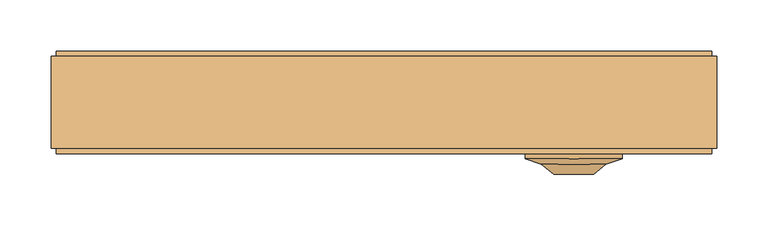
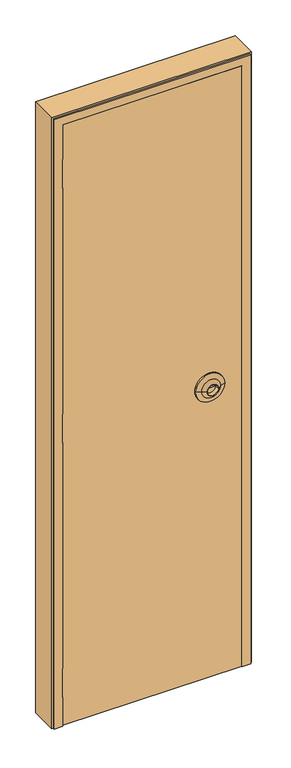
"""IFC4 building model written with IfcOpenShell, lengths in millimetres: door geometry, Puerta contraplacada : Puerta contraplacada 0.65x2.10 m."""

from ifc_helpers import new_model, si_unit, frame, origin, place, context, project, spatial, polyline, circle_curve, outline, extrude, faceted_brep, source, transform, mapped, element, save
from ifc_brep_helpers import plane_surface, cylinder_surface, revolved_surface, advanced_brep


def door_6edd51d8(model_context):
    return source(origin(), model_context, "Body", "SolidModel", [
        advanced_brep(
        [(232.78125, -55.0, 1000.0), (232.78125, -50.0, 1000.0), (137.78125, -50.0, 1000.0), (137.78125, -55.0, 1000.0), (216.78125, -60.0, 1000.0), (153.78125, -60.0, 1000.0), (204.9828812, -70.0, 1000.0), (165.5796188, -70.0, 1000.0), (203.1741787, -70.0, 1000.0), (167.3883213, -70.0, 1000.0), (203.1741787, -55.0, 1000.0), (167.3883213, -55.0, 1000.0), (185.28125, -55.0, 1000.0), (185.28125, -50.0, 1000.0)],
        [
            (0, 1),
            (1, 2, circle_curve(frame((185.28125, -50.0, 1000.0), z_axis=(0.0, -1.0, 0.0), x_axis=(-1.0, 0.0, 0.0)), 47.5)),
            (2, 3),
            (3, 0, circle_curve(frame((185.28125, -55.0, 1000.0), z_axis=(0.0, 1.0, 0.0), x_axis=(-1.0, 0.0, 0.0)), 47.5)),
            (2, 1, circle_curve(frame((185.28125, -50.0, 1000.0), z_axis=(0.0, -1.0, 0.0), x_axis=(-1.0, 0.0, 0.0)), 47.5)),
            (0, 3, circle_curve(frame((185.28125, -55.0, 1000.0), z_axis=(0.0, 1.0, 0.0), x_axis=(-1.0, 0.0, 0.0)), 47.5)),
            (4, 0),
            (3, 5),
            (5, 4, circle_curve(frame((185.28125, -60.0, 1000.0), z_axis=(0.0, 1.0, 0.0), x_axis=(-1.0, 0.0, 0.0)), 31.5)),
            (4, 5, circle_curve(frame((185.28125, -60.0, 1000.0), z_axis=(0.0, 1.0, 0.0), x_axis=(-1.0, 0.0, 0.0)), 31.5)),
            (6, 4),
            (5, 7),
            (7, 6, circle_curve(frame((185.28125, -70.0, 1000.0), z_axis=(0.0, 1.0, 0.0), x_axis=(-1.0, 0.0, 0.0)), 19.7016312)),
            (6, 7, circle_curve(frame((185.28125, -70.0, 1000.0), z_axis=(0.0, 1.0, 0.0), x_axis=(-1.0, 0.0, 0.0)), 19.7016312)),
            (8, 6),
            (7, 9),
            (9, 8, circle_curve(frame((185.28125, -70.0, 1000.0), z_axis=(0.0, 1.0, 0.0), x_axis=(-1.0, 0.0, 0.0)), 17.8929287)),
            (8, 9, circle_curve(frame((185.28125, -70.0, 1000.0), z_axis=(0.0, 1.0, 0.0), x_axis=(-1.0, 0.0, 0.0)), 17.8929287)),
            (10, 8),
            (9, 11),
            (11, 10, circle_curve(frame((185.28125, -55.0, 1000.0), z_axis=(0.0, 1.0, 0.0), x_axis=(-1.0, 0.0, 0.0)), 17.8929287)),
            (10, 11, circle_curve(frame((185.28125, -55.0, 1000.0), z_axis=(0.0, 1.0, 0.0), x_axis=(-1.0, 0.0, 0.0)), 17.8929287)),
            (12, 10),
            (11, 12),
            (1, 13),
            (13, 2),
        ],
        [
            cylinder_surface(frame((185.28125, -50.0, 1000.0), z_axis=(0.0, -1.0, 0.0), x_axis=(-1.0, 0.0, 0.0)), 47.5),
            revolved_surface(polyline([(137.78125, -55.0, 1000.0), (153.78125, -60.0, 1000.0)]), (185.28125, -50.0, 1000.0), (0.0, -1.0, 0.0)),
            revolved_surface(polyline([(153.78125, -60.0, 1000.0), (165.5796188, -70.0, 1000.0)]), (185.28125, -50.0, 1000.0), (0.0, -1.0, 0.0)),
            plane_surface(frame((185.28125, -70.0, 1000.0), z_axis=(0.0, -1.0, 0.0), x_axis=(-1.0, 0.0, 0.0))),
            revolved_surface(polyline([(167.3883213, -70.0, 1000.0), (167.3883213, -55.0, 1000.0)]), (185.28125, -50.0, 1000.0), (0.0, -1.0, 0.0)),
            plane_surface(frame((185.28125, -55.0, 1000.0), z_axis=(0.0, -1.0, 0.0), x_axis=(-1.0, 0.0, 0.0))),
            plane_surface(frame((185.28125, -50.0, 1000.0), z_axis=(0.0, 1.0, 0.0), x_axis=(-1.0, 0.0, 0.0))),
        ],
        [
            (0, [[1, 2, 3, 4]]),
            (0, [[-3, 5, -1, 6]]),
            (1, [[7, -4, 8, 9]]),
            (1, [[-8, -6, -7, 10]]),
            (2, [[11, -9, 12, 13]]),
            (2, [[-12, -10, -11, 14]]),
            (3, [[15, -13, 16, 17]]),
            (3, [[-16, -14, -15, 18]]),
            (4, [[19, -17, 20, 21]]),
            (4, [[-20, -18, -19, 22]]),
            (5, [[23, -21, 24]]),
            (5, [[-24, -22, -23]]),
            (6, [[25, 26, -2]]),
            (6, [[-26, -25, -5]]),
        ],
    ),
        faceted_brep([(325.0, -45.0, 0.0), (320.0, -45.0, 0.0), (320.0, -50.0, 0.0), (292.0, -50.0, 0.0), (292.0, 0.0, 0.0), (275.0, 0.0, 0.0), (275.0, 50.0, 0.0), (320.0, 50.0, 0.0), (320.0, 45.0, 0.0), (325.0, 45.0, 0.0), (325.0, 45.0, 2100.0), (325.0, -45.0, 2100.0), (320.0, 45.0, 2095.0), (-320.0, 45.0, 2095.0), (-320.0, 45.0, 0.0), (-325.0, 45.0, 0.0), (-325.0, 45.0, 2100.0), (320.0, 50.0, 2095.0), (275.0, 50.0, 2050.0), (-275.0, 50.0, 2050.0), (-275.0, 50.0, 0.0), (-320.0, 50.0, 0.0), (-320.0, 50.0, 2095.0), (275.0, 0.0, 2050.0), (292.0, 0.0, 2067.0), (-292.0, 0.0, 2067.0), (-292.0, 0.0, 0.0), (-275.0, 0.0, 0.0), (-275.0, 0.0, 2050.0), (292.0, -50.0, 2067.0), (320.0, -50.0, 2095.0), (-320.0, -50.0, 2095.0), (-320.0, -50.0, 0.0), (-292.0, -50.0, 0.0), (-292.0, -50.0, 100.0349265), (-294.0, -50.0, 100.0349265), (-294.0, -50.0, 200.0349265), (-292.0, -50.0, 200.0349265), (-292.0, -50.0, 975.0174632), (-294.0, -50.0, 975.0174632), (-294.0, -50.0, 1075.0174632), (-292.0, -50.0, 1075.0174632), (-292.0, -50.0, 1850.0), (-294.0, -50.0, 1850.0), (-294.0, -50.0, 1950.0), (-292.0, -50.0, 1950.0), (-292.0, -50.0, 2067.0), (320.0, -45.0, 2095.0), (-325.0, -45.0, 2100.0), (-325.0, -45.0, 0.0), (-320.0, -45.0, 0.0), (-320.0, -45.0, 2095.0), (-292.0, -7.5, 1950.0), (-292.0, -7.5, 1850.0), (-292.0, -7.5, 1075.0174632), (-292.0, -7.5, 975.0174632), (-292.0, -7.5, 200.0349265), (-292.0, -7.5, 100.0349265), (-294.0, -7.5, 100.0349265), (-294.0, -7.5, 200.0349265), (-294.0, -7.5, 975.0174632), (-294.0, -7.5, 1075.0174632), (-294.0, -7.5, 1950.0), (-294.0, -7.5, 1850.0)], [[[0, 1, 2, 3, 4, 5, 6, 7, 8, 9]], [[9, 10, 11, 0]], [[8, 12, 13, 14, 15, 16, 10, 9]], [[7, 17, 12, 8]], [[6, 18, 19, 20, 21, 22, 17, 7]], [[5, 23, 18, 6]], [[4, 24, 25, 26, 27, 28, 23, 5]], [[3, 29, 24, 4]], [[2, 30, 31, 32, 33, 34, 35, 36, 37, 38, 39, 40, 41, 42, 43, 44, 45, 46, 29, 3]], [[1, 47, 30, 2]], [[0, 11, 48, 49, 50, 51, 47, 1]], [[15, 14, 21, 20, 27, 26, 33, 32, 50, 49]], [[16, 15, 49, 48]], [[51, 50, 32, 31]], [[46, 45, 52, 53, 42, 41, 54, 55, 38, 37, 56, 57, 34, 33, 26, 25]], [[28, 27, 20, 19]], [[22, 21, 14, 13]], [[58, 35, 34, 57]], [[58, 57, 56, 59]], [[56, 37, 36, 59]], [[60, 39, 38, 55]], [[60, 55, 54, 61]], [[54, 41, 40, 61]], [[61, 40, 39, 60]], [[59, 36, 35, 58]], [[10, 16, 48, 11]], [[23, 28, 19, 18]], [[29, 46, 25, 24]], [[17, 22, 13, 12]], [[47, 51, 31, 30]], [[62, 44, 43, 63]], [[62, 52, 45, 44]], [[63, 53, 52, 62]], [[43, 42, 53, 63]]]),
        extrude(outline(polyline([(-292.0, -1.803125), (-292.0, 0.0), (292.0, 0.0), (292.0, -1.803125), (-292.0, -1.803125)])), frame((0.0, 0.0, 2.5), z_axis=(0.0, 0.0, 1.0), x_axis=(1.0, 0.0, 0.0)), (0.0, 0.0, 1.0), 2064.5),
        extrude(outline(polyline([(292.0, -48.203125), (292.0, -50.0), (-292.0, -50.0), (-292.0, -48.203125), (292.0, -48.203125)])), frame((0.0, 0.0, 2.5), z_axis=(0.0, 0.0, 1.0), x_axis=(1.0, 0.0, 0.0)), (0.0, 0.0, 1.0), 2064.5),
        extrude(outline(polyline([(217.0, -1.803125), (217.0, -48.203125), (-217.0, -48.203125), (-217.0, -1.803125), (217.0, -1.803125)])), frame((0.0, 0.0, 987.5174632), z_axis=(0.0, 0.0, 1.0), x_axis=(1.0, 0.0, 0.0)), (0.0, 0.0, 1.0), 75.0),
        extrude(outline(polyline([(2.5, 292.0), (2067.0, 292.0), (2067.0, -292.0), (2.5, -292.0), (2.5, 292.0)]), holes=[polyline([(1992.0, 217.0), (77.5, 217.0), (77.5, -217.0), (1992.0, -217.0), (1992.0, 217.0)])]), frame((0.0, -48.203125, 0.0), z_axis=(0.0, 1.0, 0.0), x_axis=(0.0, 0.0, 1.0)), (0.0, 0.0, 1.0), 46.4),
    ])


if __name__ == "__main__":
    model = new_model("IFC4")
    model_context = context("Model", 3, world=origin())
    ifc_project = project(units=[si_unit("LENGTHUNIT", "METRE", prefix="MILLI")], contexts=[model_context])
    site = spatial("IfcSite", under=ifc_project)
    building = spatial("IfcBuilding", under=site)
    placement = place(None, origin())
    door_shape = door_6edd51d8(model_context)
    element("IfcDoor", 1, ObjectType="Puerta contraplacada : Puerta contraplacada 0.65x2.10 m", at=placement, inside=building, context=model_context, shape_type="MappedRepresentation", body=[
        mapped(door_shape, transform((0.0, 0.0, 0.0), x_axis=(1.0, 0.0, 0.0), y_axis=(0.0, 1.0, 0.0), z_axis=(0.0, 0.0, 1.0))),
    ])
    save(model, "model.ifc")
